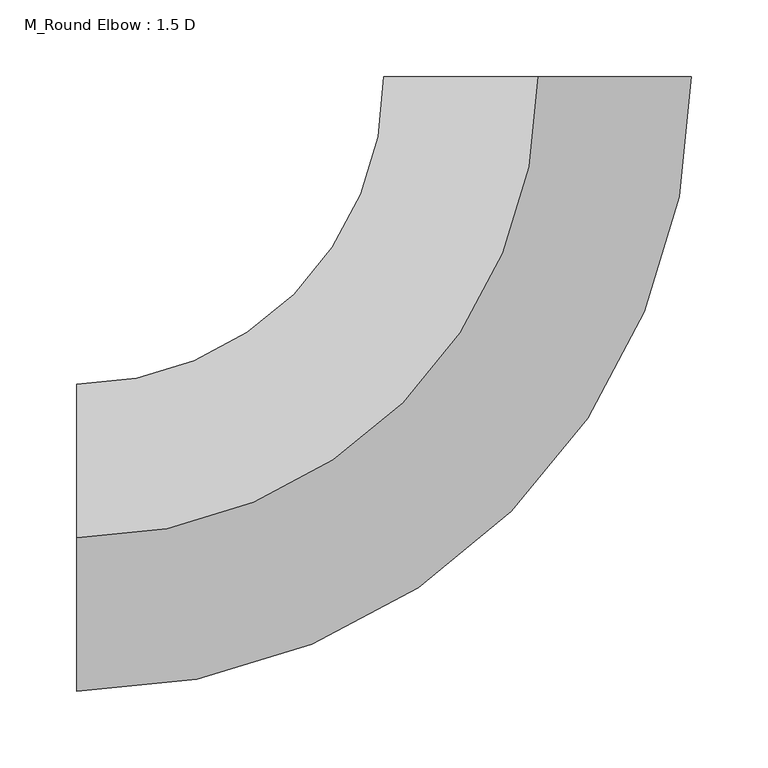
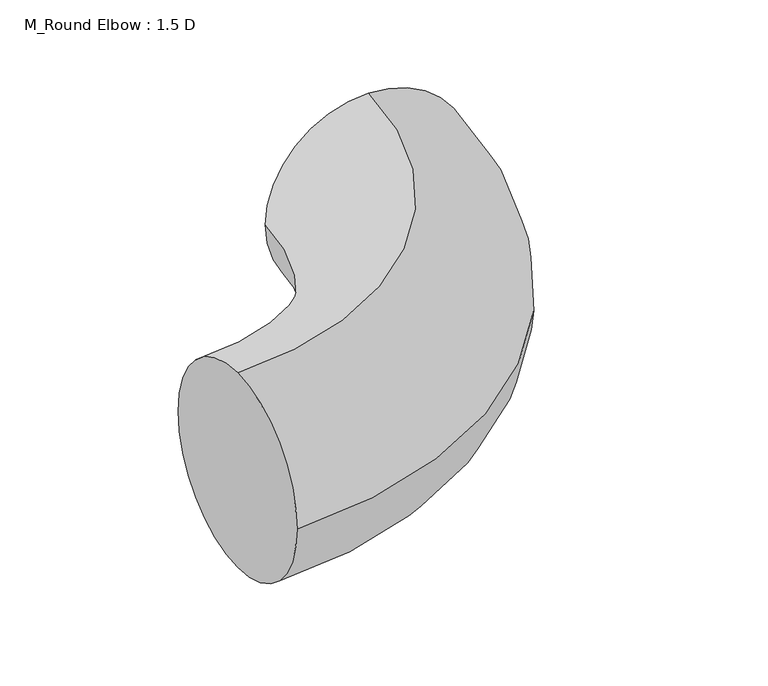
"""IFC4 building model written with IfcOpenShell, lengths in millimetres: duct fitting geometry, M_Round Elbow : 1.5 D."""

import ifcopenshell
import ifcopenshell.guid

model = None  # the IFC model being written
_history = None  # IfcOwnerHistory: only IFC2X3 demands one
_inside = {}  # id of a spatial element -> (the spatial element, [elements in it])
_under = {}  # id of a project, library or spatial element -> (it, [spatial elements below it])
_declared = {}  # id of a project -> (the project, [libraries it declares])
_typed = {}  # id of a type object -> (the type object, [elements of that type])
_made_of = {}  # id of a material, layer set ... -> (it, [elements and type objects made of it])


def new_model(schema):
    """Start an empty IFC model of exactly this schema.

    Asked for "IFC4X3", IfcOpenShell would pick the latest addendum, in which some entities
    have other attributes; the version numbers below select the first issue.
    IFC2X3 requires an IfcOwnerHistory on every rooted entity: one is made here for all.
    """
    global model, _history
    if schema == "IFC4X3":
        model = ifcopenshell.file(schema_version=(4, 3, 0, 0))
    else:
        model = ifcopenshell.file(schema=schema)
    _inside.clear()
    _under.clear()
    _declared.clear()
    _typed.clear()
    _made_of.clear()
    _history = None
    if model.schema == "IFC2X3":
        org = make("IfcOrganization", Name="unknown")
        user = make(
            "IfcPersonAndOrganization",
            ThePerson=make("IfcPerson", FamilyName="unknown"),
            TheOrganization=org,
        )
        app = make(
            "IfcApplication",
            ApplicationDeveloper=org,
            Version="unknown",
            ApplicationFullName="unknown",
            ApplicationIdentifier="unknown",
        )
        _history = make(
            "IfcOwnerHistory",
            OwningUser=user,
            OwningApplication=app,
            ChangeAction="ADDED",
            CreationDate=0,
        )
    return model


def make(cls, **values):
    """One entity of the class cls with the attributes given. An attribute that is None is left unset."""
    return model.create_entity(
        cls, **{name: value for name, value in values.items() if value is not None}
    )


def rooted(cls, **values):
    """An entity with a GlobalId (a new one), such as an element, a storey or a relation."""
    return make(cls, GlobalId=ifcopenshell.guid.new(), OwnerHistory=_history, **values)


def si_unit(unit_type, name, prefix=None):
    """IfcSIUnit, for example si_unit("LENGTHUNIT", "METRE", prefix="MILLI")."""
    return make("IfcSIUnit", UnitType=unit_type, Prefix=prefix, Name=name)


def assignment(units):
    """IfcUnitAssignment: the units of a project."""
    return None if units is None else make("IfcUnitAssignment", Units=units)


def point(xyz):
    """IfcCartesianPoint."""
    return None if xyz is None else make("IfcCartesianPoint", Coordinates=xyz)


def direction(xyz):
    """IfcDirection."""
    return None if xyz is None else make("IfcDirection", DirectionRatios=xyz)


def frame(location, z_axis=None, x_axis=None):
    """IfcAxis2Placement3D, a coordinate frame: its origin and axes. An axis left out is left unset."""
    return make(
        "IfcAxis2Placement3D",
        Location=point(location),
        Axis=direction(z_axis),
        RefDirection=direction(x_axis),
    )


def origin():
    """The frame at (0, 0, 0) with its axes left unset."""
    return frame((0.0, 0.0, 0.0))


def place(relative_to, where):
    """IfcLocalPlacement: puts the frame where relative to a parent placement (None: the world)."""
    return make(
        "IfcLocalPlacement", PlacementRelTo=relative_to, RelativePlacement=where
    )


def context(
    kind, dimensions, precision=None, world=None, true_north=None, identifier=None
):
    """IfcGeometricRepresentationContext, for example the 3D "Model" context."""
    return make(
        "IfcGeometricRepresentationContext",
        ContextIdentifier=identifier,
        ContextType=kind,
        CoordinateSpaceDimension=dimensions,
        Precision=precision,
        WorldCoordinateSystem=world,
        TrueNorth=true_north,
    )


def project(units=None, contexts=None):
    """IfcProject with its units and contexts."""
    return rooted(
        "IfcProject",
        Name="project",
        RepresentationContexts=contexts,
        UnitsInContext=assignment(units),
    )


def spatial(cls, under=None, at=None, **own):
    """A site, building, storey or space (cls), placed at a placement, below another one or the project."""
    s = rooted(cls, ObjectPlacement=at, **own)
    if under is not None:
        _under.setdefault(under.id(), (under, []))[1].append(s)
    return s


def circle_curve(where, radius):
    """IfcCircle in the frame where."""
    return make("IfcCircle", Position=where, Radius=radius)


def ellipse_curve(where, semi_axis1, semi_axis2):
    """IfcEllipse in the frame where."""
    return make(
        "IfcEllipse", Position=where, SemiAxis1=semi_axis1, SemiAxis2=semi_axis2
    )


def trimmed(basis, trim1, trim2, sense, master):
    """IfcTrimmedCurve: the piece of a basis curve between two trims."""
    return make(
        "IfcTrimmedCurve",
        BasisCurve=basis,
        Trim1=trim1,
        Trim2=trim2,
        SenseAgreement=sense,
        MasterRepresentation=master,
    )


def shape(context_of_items, identifier, shape_type, items):
    """IfcShapeRepresentation: the items that make up one representation, for example the "Body"."""
    return make(
        "IfcShapeRepresentation",
        ContextOfItems=context_of_items,
        RepresentationIdentifier=identifier,
        RepresentationType=shape_type,
        Items=items,
    )


def source(mapping_origin, context_of_items, identifier, shape_type, items):
    """IfcRepresentationMap: a shape defined once, which mapped items show again and again."""
    return make(
        "IfcRepresentationMap",
        MappingOrigin=mapping_origin,
        MappedRepresentation=shape(context_of_items, identifier, shape_type, items),
    )


def transform(
    local_origin,
    x_axis=None,
    y_axis=None,
    z_axis=None,
    scale=None,
    scale2=None,
    scale3=None,
    uniform=True,
):
    """IfcCartesianTransformationOperator3D, or its non-uniform kind. x_axis, y_axis, z_axis: its Axis1, 2, 3."""
    if uniform:
        return make(
            "IfcCartesianTransformationOperator3D",
            Axis1=direction(x_axis),
            Axis2=direction(y_axis),
            LocalOrigin=point(local_origin),
            Scale=scale,
            Axis3=direction(z_axis),
        )
    return make(
        "IfcCartesianTransformationOperator3DnonUniform",
        Axis1=direction(x_axis),
        Axis2=direction(y_axis),
        LocalOrigin=point(local_origin),
        Scale=scale,
        Axis3=direction(z_axis),
        Scale2=scale2,
        Scale3=scale3,
    )


def mapped(mapping_source, mapping_target):
    """IfcMappedItem: shows the shape of a source again, moved by a transform."""
    return make(
        "IfcMappedItem", MappingSource=mapping_source, MappingTarget=mapping_target
    )


def made_of(thing, what):
    """Note that an element or type object is made of a material, layer set ...; save() writes the relation."""
    if what is not None:
        _made_of.setdefault(what.id(), (what, []))[1].append(thing)
    return thing


def element(
    cls,
    number,
    at=None,
    inside=None,
    cuts=None,
    type_object=None,
    material=None,
    context=None,
    identifier="Body",
    shape_type=None,
    held_by="IfcProductDefinitionShape",
    body=None,
    shapes=None,
    **own,
):
    """One element of the class cls, such as IfcWall. Its Tag is "e" and its number.

    at: its placement. inside: the storey or other place that contains it. cuts: it is an
    opening in that element (IfcRelVoidsElement). A single representation is given by context,
    identifier, shape_type and body (its items); several are given by shapes. held_by: the class
    of the entity that holds the representations. save() writes the other relations.
    """
    e = rooted(cls, Tag="e%d" % number, ObjectPlacement=at, **own)
    if body is not None:
        shapes = [shape(context, identifier, shape_type, body)]
    if shapes is not None:
        e.Representation = make(held_by, Representations=shapes)
    if inside is not None:
        _inside.setdefault(inside.id(), (inside, []))[1].append(e)
    if cuts is not None:
        rooted(
            "IfcRelVoidsElement", RelatingBuildingElement=cuts, RelatedOpeningElement=e
        )
    if type_object is not None:
        _typed.setdefault(type_object.id(), (type_object, []))[1].append(e)
    return made_of(e, material)


def aggregate(whole, parts):
    """IfcRelAggregates: a whole, such as a stair, and the parts it consists of."""
    return rooted("IfcRelAggregates", RelatingObject=whole, RelatedObjects=parts)


def save(model, path):
    """Write the relations noted so far, then the file.

    IfcRelAggregates (storeys below a building ...), IfcRelContainedInSpatialStructure (elements
    in a storey), IfcRelDefinesByType, IfcRelAssociatesMaterial and IfcRelDeclares: one each for
    every whole, place, type object, material and project.
    """
    for whole, parts in _under.values():
        aggregate(whole, parts)
    for where, things in _inside.values():
        rooted(
            "IfcRelContainedInSpatialStructure",
            RelatedElements=things,
            RelatingStructure=where,
        )
    for kind, things in _typed.values():
        rooted("IfcRelDefinesByType", RelatedObjects=things, RelatingType=kind)
    for what, things in _made_of.values():
        rooted("IfcRelAssociatesMaterial", RelatedObjects=things, RelatingMaterial=what)
    for by, libraries in _declared.values():
        rooted("IfcRelDeclares", RelatingContext=by, RelatedDefinitions=libraries)
    model.write(path)


def plane_surface(at):
    """IfcPlane: the flat surface through the origin of the frame at, square to its z axis."""
    return make("IfcPlane", Position=at)


def revolved_surface(curve, axis_point, axis_direction):
    """IfcSurfaceOfRevolution: the curve turned about the line through axis_point along axis_direction."""
    return make(
        "IfcSurfaceOfRevolution",
        SweptCurve=make("IfcArbitraryOpenProfileDef", ProfileType="CURVE", Curve=curve),
        AxisPosition=make("IfcAxis1Placement", Location=point(axis_point), Axis=direction(axis_direction)),
    )


def advanced_brep(points, edges, surfaces, faces):
    """IfcAdvancedBrep: a solid bounded by faces that lie on surfaces and meet in shared edges.

    An edge is (start, end): straight between two places in points (the first is 0);
    or (start, end, curve); or (start, end, curve, False) where it runs against its curve.
    A face is (place in surfaces, loops), or (place, loops, False) where it looks against
    its surface's normal. A loop lists edges by number (the first is 1), with a minus sign
    where the edge is run from its end to its start. The first loop is the outer one.
    """
    corners = [point(p) for p in points]
    vertices = [make("IfcVertexPoint", VertexGeometry=c) for c in corners]
    made = []
    for start, end, *more in edges:
        made.append(
            make(
                "IfcEdgeCurve",
                EdgeStart=vertices[start],
                EdgeEnd=vertices[end],
                EdgeGeometry=more[0] if more else make("IfcPolyline", Points=[corners[start], corners[end]]),
                SameSense=more[1] if len(more) > 1 else True,
            )
        )
    hull = []
    for where, loops, *sense in faces:
        bounds = []
        for j, loop in enumerate(loops):
            ring = [make("IfcOrientedEdge", EdgeElement=made[abs(k) - 1], Orientation=k > 0) for k in loop]
            bounds.append(
                make(
                    "IfcFaceOuterBound" if j == 0 else "IfcFaceBound",
                    Bound=make("IfcEdgeLoop", EdgeList=ring),
                    Orientation=True,
                )
            )
        hull.append(make("IfcAdvancedFace", Bounds=bounds, FaceSurface=surfaces[where], SameSense=sense[0] if sense else True))
    return make("IfcAdvancedBrep", Outer=make("IfcClosedShell", CfsFaces=hull))


def m_round_elbow_1_5_d_b7bc3624(model_context):
    return source(origin(), model_context, "Body", "AdvancedBrep", [
        advanced_brep(
        [(-300.0, 0.0, 100.0), (-300.0, 100.0, 0.0), (-300.0, 0.0, -100.0), (-300.0, -100.0, 0.0), (0.0, 300.0, 100.0), (100.0, 300.0, 0.0), (0.0, 300.0, -100.0), (-100.0, 300.0, 0.0)],
        [
            (0, 1, circle_curve(frame((-300.0, 0.0, 0.0), z_axis=(-1.0, 0.0, 0.0), x_axis=(0.0, 1.0, 0.0)), 100.0)),
            (1, 2, circle_curve(frame((-300.0, 0.0, 0.0), z_axis=(-1.0, 0.0, 0.0), x_axis=(0.0, 1.0, 0.0)), 100.0)),
            (2, 3, circle_curve(frame((-300.0, 0.0, 0.0), z_axis=(-1.0, 0.0, 0.0), x_axis=(0.0, 1.0, 0.0)), 100.0)),
            (3, 0, circle_curve(frame((-300.0, 0.0, 0.0), z_axis=(-1.0, 0.0, 0.0), x_axis=(0.0, 1.0, 0.0)), 100.0)),
            (4, 5, circle_curve(frame((0.0, 300.0, 0.0), z_axis=(0.0, 1.0, 0.0), x_axis=(-1.0, 0.0, 0.0)), 100.0)),
            (5, 6, circle_curve(frame((0.0, 300.0, 0.0), z_axis=(0.0, 1.0, 0.0), x_axis=(-1.0, 0.0, 0.0)), 100.0)),
            (6, 7, circle_curve(frame((0.0, 300.0, 0.0), z_axis=(0.0, 1.0, 0.0), x_axis=(-1.0, 0.0, 0.0)), 100.0)),
            (7, 4, circle_curve(frame((0.0, 300.0, 0.0), z_axis=(0.0, 1.0, 0.0), x_axis=(-1.0, 0.0, 0.0)), 100.0)),
            (7, 1, circle_curve(frame((-300.0, 300.0, 0.0), z_axis=(0.0, 0.0, -1.0), x_axis=(0.0, -1.0, 0.0)), 200.0)),
            (0, 4, circle_curve(frame((-300.0, 300.0, 100.0), z_axis=(0.0, 0.0, 1.0), x_axis=(0.0, -1.0, 0.0)), 300.0)),
            (6, 2, circle_curve(frame((-300.0, 300.0, -100.0), z_axis=(0.0, 0.0, -1.0), x_axis=(0.0, -1.0, 0.0)), 300.0)),
            (5, 3, circle_curve(frame((-300.0, 300.0, 0.0), z_axis=(0.0, 0.0, -1.0), x_axis=(0.0, -1.0, 0.0)), 400.0)),
        ],
        [
            plane_surface(frame((-300.0, 0.0, 0.0), z_axis=(-1.0, 0.0, 0.0), x_axis=(0.0, 0.0, 1.0))),
            plane_surface(frame((0.0, 300.0, 0.0), z_axis=(0.0, 1.0, 0.0), x_axis=(0.0, 0.0, 1.0))),
            revolved_surface(trimmed(ellipse_curve(frame((-300.0, 0.0, 0.0), z_axis=(-1.0, 0.0, 0.0), x_axis=(0.0, 1.0, 0.0)), 100.0, 100.0), [point((-300.0, 0.0, 100.0))], [point((-300.0, 100.0, 0.0))], True, "CARTESIAN"), (-300.0, 300.0, 0.0), (0.0, 0.0, 1.0)),
            revolved_surface(trimmed(ellipse_curve(frame((-300.0, 0.0, 0.0), z_axis=(-1.0, 0.0, 0.0), x_axis=(0.0, 1.0, 0.0)), 100.0, 100.0), [point((-300.0, 100.0, 0.0))], [point((-300.0, 0.0, -100.0))], True, "CARTESIAN"), (-300.0, 300.0, 0.0), (0.0, 0.0, 1.0)),
            revolved_surface(trimmed(ellipse_curve(frame((-300.0, 0.0, 0.0), z_axis=(-1.0, 0.0, 0.0), x_axis=(0.0, 1.0, 0.0)), 100.0, 100.0), [point((-300.0, 0.0, -100.0))], [point((-300.0, -100.0, 0.0))], True, "CARTESIAN"), (-300.0, 300.0, 0.0), (0.0, 0.0, 1.0)),
            revolved_surface(trimmed(ellipse_curve(frame((-300.0, 0.0, 0.0), z_axis=(-1.0, 0.0, 0.0), x_axis=(0.0, 1.0, 0.0)), 100.0, 100.0), [point((-300.0, -100.0, 0.0))], [point((-300.0, 0.0, 100.0))], True, "CARTESIAN"), (-300.0, 300.0, 0.0), (0.0, 0.0, 1.0)),
        ],
        [
            (0, [[1, 2, 3, 4]]),
            (1, [[5, 6, 7, 8]]),
            (2, [[9, -1, 10, -8]]),
            (3, [[11, -2, -9, -7]]),
            (4, [[12, -3, -11, -6]]),
            (5, [[-10, -4, -12, -5]]),
        ],
    ),
        advanced_brep(
        [(-300.0, 0.0, 100.0), (-300.0, 100.0, 0.0), (-300.0, 0.0, -100.0), (-300.0, -100.0, 0.0), (0.0, 300.0, 100.0), (100.0, 300.0, 0.0), (0.0, 300.0, -100.0), (-100.0, 300.0, 0.0)],
        [
            (0, 1, circle_curve(frame((-300.0, 0.0, 0.0), z_axis=(-1.0, 0.0, 0.0), x_axis=(0.0, 1.0, 0.0)), 100.0)),
            (1, 2, circle_curve(frame((-300.0, 0.0, 0.0), z_axis=(-1.0, 0.0, 0.0), x_axis=(0.0, 1.0, 0.0)), 100.0)),
            (2, 3, circle_curve(frame((-300.0, 0.0, 0.0), z_axis=(-1.0, 0.0, 0.0), x_axis=(0.0, 1.0, 0.0)), 100.0)),
            (3, 0, circle_curve(frame((-300.0, 0.0, 0.0), z_axis=(-1.0, 0.0, 0.0), x_axis=(0.0, 1.0, 0.0)), 100.0)),
            (4, 5, circle_curve(frame((0.0, 300.0, 0.0), z_axis=(0.0, 1.0, 0.0), x_axis=(-1.0, 0.0, 0.0)), 100.0)),
            (5, 6, circle_curve(frame((0.0, 300.0, 0.0), z_axis=(0.0, 1.0, 0.0), x_axis=(-1.0, 0.0, 0.0)), 100.0)),
            (6, 7, circle_curve(frame((0.0, 300.0, 0.0), z_axis=(0.0, 1.0, 0.0), x_axis=(-1.0, 0.0, 0.0)), 100.0)),
            (7, 4, circle_curve(frame((0.0, 300.0, 0.0), z_axis=(0.0, 1.0, 0.0), x_axis=(-1.0, 0.0, 0.0)), 100.0)),
            (7, 1, circle_curve(frame((-300.0, 300.0, 0.0), z_axis=(0.0, 0.0, -1.0), x_axis=(0.0, -1.0, 0.0)), 200.0)),
            (0, 4, circle_curve(frame((-300.0, 300.0, 100.0), z_axis=(0.0, 0.0, 1.0), x_axis=(0.0, -1.0, 0.0)), 300.0)),
            (6, 2, circle_curve(frame((-300.0, 300.0, -100.0), z_axis=(0.0, 0.0, -1.0), x_axis=(0.0, -1.0, 0.0)), 300.0)),
            (5, 3, circle_curve(frame((-300.0, 300.0, 0.0), z_axis=(0.0, 0.0, -1.0), x_axis=(0.0, -1.0, 0.0)), 400.0)),
        ],
        [
            plane_surface(frame((-300.0, 0.0, 0.0), z_axis=(-1.0, 0.0, 0.0), x_axis=(0.0, 0.0, 1.0))),
            plane_surface(frame((0.0, 300.0, 0.0), z_axis=(0.0, 1.0, 0.0), x_axis=(0.0, 0.0, 1.0))),
            revolved_surface(trimmed(ellipse_curve(frame((-300.0, 0.0, 0.0), z_axis=(-1.0, 0.0, 0.0), x_axis=(0.0, 1.0, 0.0)), 100.0, 100.0), [point((-300.0, 0.0, 100.0))], [point((-300.0, 100.0, 0.0))], True, "CARTESIAN"), (-300.0, 300.0, 0.0), (0.0, 0.0, 1.0)),
            revolved_surface(trimmed(ellipse_curve(frame((-300.0, 0.0, 0.0), z_axis=(-1.0, 0.0, 0.0), x_axis=(0.0, 1.0, 0.0)), 100.0, 100.0), [point((-300.0, 100.0, 0.0))], [point((-300.0, 0.0, -100.0))], True, "CARTESIAN"), (-300.0, 300.0, 0.0), (0.0, 0.0, 1.0)),
            revolved_surface(trimmed(ellipse_curve(frame((-300.0, 0.0, 0.0), z_axis=(-1.0, 0.0, 0.0), x_axis=(0.0, 1.0, 0.0)), 100.0, 100.0), [point((-300.0, 0.0, -100.0))], [point((-300.0, -100.0, 0.0))], True, "CARTESIAN"), (-300.0, 300.0, 0.0), (0.0, 0.0, 1.0)),
            revolved_surface(trimmed(ellipse_curve(frame((-300.0, 0.0, 0.0), z_axis=(-1.0, 0.0, 0.0), x_axis=(0.0, 1.0, 0.0)), 100.0, 100.0), [point((-300.0, -100.0, 0.0))], [point((-300.0, 0.0, 100.0))], True, "CARTESIAN"), (-300.0, 300.0, 0.0), (0.0, 0.0, 1.0)),
        ],
        [
            (0, [[1, 2, 3, 4]]),
            (1, [[5, 6, 7, 8]]),
            (2, [[9, -1, 10, -8]]),
            (3, [[11, -2, -9, -7]]),
            (4, [[12, -3, -11, -6]]),
            (5, [[-10, -4, -12, -5]]),
        ],
    ),
        advanced_brep(
        [(-300.0, 0.0, 100.0), (-300.0, 100.0, 0.0), (-300.0, 0.0, -100.0), (-300.0, -100.0, 0.0), (0.0, 300.0, 100.0), (100.0, 300.0, 0.0), (0.0, 300.0, -100.0), (-100.0, 300.0, 0.0)],
        [
            (0, 1, circle_curve(frame((-300.0, 0.0, 0.0), z_axis=(-1.0, 0.0, 0.0), x_axis=(0.0, 1.0, 0.0)), 100.0)),
            (1, 2, circle_curve(frame((-300.0, 0.0, 0.0), z_axis=(-1.0, 0.0, 0.0), x_axis=(0.0, 1.0, 0.0)), 100.0)),
            (2, 3, circle_curve(frame((-300.0, 0.0, 0.0), z_axis=(-1.0, 0.0, 0.0), x_axis=(0.0, 1.0, 0.0)), 100.0)),
            (3, 0, circle_curve(frame((-300.0, 0.0, 0.0), z_axis=(-1.0, 0.0, 0.0), x_axis=(0.0, 1.0, 0.0)), 100.0)),
            (4, 5, circle_curve(frame((0.0, 300.0, 0.0), z_axis=(0.0, 1.0, 0.0), x_axis=(-1.0, 0.0, 0.0)), 100.0)),
            (5, 6, circle_curve(frame((0.0, 300.0, 0.0), z_axis=(0.0, 1.0, 0.0), x_axis=(-1.0, 0.0, 0.0)), 100.0)),
            (6, 7, circle_curve(frame((0.0, 300.0, 0.0), z_axis=(0.0, 1.0, 0.0), x_axis=(-1.0, 0.0, 0.0)), 100.0)),
            (7, 4, circle_curve(frame((0.0, 300.0, 0.0), z_axis=(0.0, 1.0, 0.0), x_axis=(-1.0, 0.0, 0.0)), 100.0)),
            (7, 1, circle_curve(frame((-300.0, 300.0, 0.0), z_axis=(0.0, 0.0, -1.0), x_axis=(0.0, -1.0, 0.0)), 200.0)),
            (0, 4, circle_curve(frame((-300.0, 300.0, 100.0), z_axis=(0.0, 0.0, 1.0), x_axis=(0.0, -1.0, 0.0)), 300.0)),
            (6, 2, circle_curve(frame((-300.0, 300.0, -100.0), z_axis=(0.0, 0.0, -1.0), x_axis=(0.0, -1.0, 0.0)), 300.0)),
            (5, 3, circle_curve(frame((-300.0, 300.0, 0.0), z_axis=(0.0, 0.0, -1.0), x_axis=(0.0, -1.0, 0.0)), 400.0)),
        ],
        [
            plane_surface(frame((-300.0, 0.0, 0.0), z_axis=(-1.0, 0.0, 0.0), x_axis=(0.0, 0.0, 1.0))),
            plane_surface(frame((0.0, 300.0, 0.0), z_axis=(0.0, 1.0, 0.0), x_axis=(0.0, 0.0, 1.0))),
            revolved_surface(trimmed(ellipse_curve(frame((-300.0, 0.0, 0.0), z_axis=(-1.0, 0.0, 0.0), x_axis=(0.0, 1.0, 0.0)), 100.0, 100.0), [point((-300.0, 0.0, 100.0))], [point((-300.0, 100.0, 0.0))], True, "CARTESIAN"), (-300.0, 300.0, 0.0), (0.0, 0.0, 1.0)),
            revolved_surface(trimmed(ellipse_curve(frame((-300.0, 0.0, 0.0), z_axis=(-1.0, 0.0, 0.0), x_axis=(0.0, 1.0, 0.0)), 100.0, 100.0), [point((-300.0, 100.0, 0.0))], [point((-300.0, 0.0, -100.0))], True, "CARTESIAN"), (-300.0, 300.0, 0.0), (0.0, 0.0, 1.0)),
            revolved_surface(trimmed(ellipse_curve(frame((-300.0, 0.0, 0.0), z_axis=(-1.0, 0.0, 0.0), x_axis=(0.0, 1.0, 0.0)), 100.0, 100.0), [point((-300.0, 0.0, -100.0))], [point((-300.0, -100.0, 0.0))], True, "CARTESIAN"), (-300.0, 300.0, 0.0), (0.0, 0.0, 1.0)),
            revolved_surface(trimmed(ellipse_curve(frame((-300.0, 0.0, 0.0), z_axis=(-1.0, 0.0, 0.0), x_axis=(0.0, 1.0, 0.0)), 100.0, 100.0), [point((-300.0, -100.0, 0.0))], [point((-300.0, 0.0, 100.0))], True, "CARTESIAN"), (-300.0, 300.0, 0.0), (0.0, 0.0, 1.0)),
        ],
        [
            (0, [[1, 2, 3, 4]]),
            (1, [[5, 6, 7, 8]]),
            (2, [[9, -1, 10, -8]]),
            (3, [[11, -2, -9, -7]]),
            (4, [[12, -3, -11, -6]]),
            (5, [[-10, -4, -12, -5]]),
        ],
    ),
    ])


if __name__ == "__main__":
    model = new_model("IFC4")
    model_context = context("Model", 3, world=origin())
    ifc_project = project(units=[si_unit("LENGTHUNIT", "METRE", prefix="MILLI")], contexts=[model_context])
    site = spatial("IfcSite", under=ifc_project)
    building = spatial("IfcBuilding", under=site)
    placement = place(None, origin())
    m_round_elbow_1_5_d_shape = m_round_elbow_1_5_d_b7bc3624(model_context)
    element("IfcDuctFitting", 1, ObjectType="M_Round Elbow : 1.5 D", at=placement, inside=building, context=model_context, shape_type="MappedRepresentation", body=[
        mapped(m_round_elbow_1_5_d_shape, transform((0.0, 0.0, 0.0), x_axis=(1.0, 0.0, 0.0), y_axis=(0.0, 1.0, 0.0), z_axis=(0.0, 0.0, 1.0))),
    ])
    save(model, "model.ifc")
